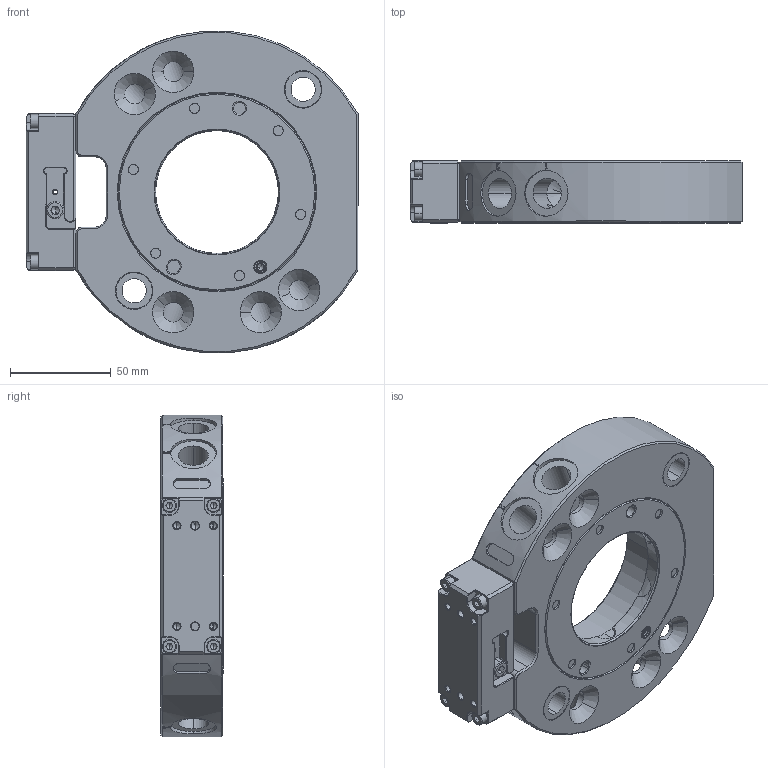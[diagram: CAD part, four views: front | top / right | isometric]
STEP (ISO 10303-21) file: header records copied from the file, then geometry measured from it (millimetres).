
FILE_DESCRIPTION (( 'STEP AP214' ), '1' );
FILE_NAME ('SQ-100.STEP', '2021-06-02T06:05:08', ( '' ), ( '' ), 'SwSTEP 2.0', 'SolidWorks 2018', '' );
FILE_SCHEMA (( 'AUTOMOTIVE_DESIGN' ));
Length unit declared in the file: millimetre
Products named in the file (1): SQ-100
Bounding box: 164.8 x 31.05 x 159.46 mm (x, y, z)
Volume: 438878.8 mm3; surface area: 91755.5 mm2
Topology: 8 solids, 51 shells, 2499 faces, 6333 edges, 3855 vertices
Faces by surface type: cone 1260, cylinder 748, plane 356, bspline 82, torus 51, sphere 2
Entity records: 111621 total; most frequent: CARTESIAN_POINT 22634, DIRECTION 13964, ORIENTED_EDGE 12478, EDGE_CURVE 6239, AXIS2_PLACEMENT_3D 5696, VERTEX_POINT 3855, CIRCLE 3278, EDGE_LOOP 2628
